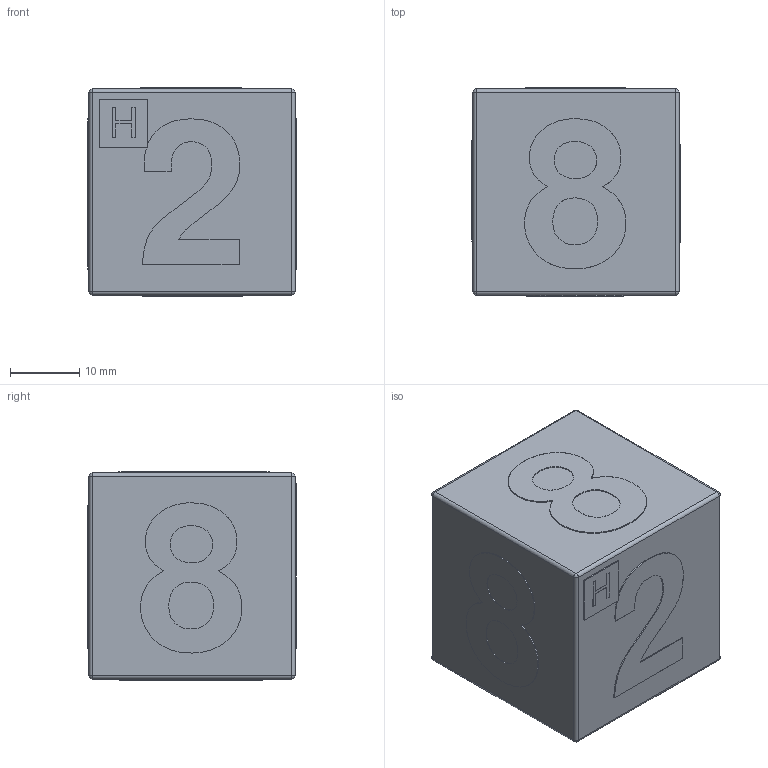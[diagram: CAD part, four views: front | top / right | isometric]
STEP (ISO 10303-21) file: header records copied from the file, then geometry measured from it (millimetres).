
FILE_DESCRIPTION(('Open CASCADE Model'),'2;1');
FILE_NAME('Open CASCADE Shape Model','2025-09-14T20:47:13',('Author'),( 'Open CASCADE'),'Open CASCADE STEP processor 7.8','Open CASCADE 7.8' ,'Unknown');
FILE_SCHEMA(('AUTOMOTIVE_DESIGN { 1 0 10303 214 1 1 1 1 }'));
Length unit declared in the file: millimetre
Products named in the file (20): 9c3311c0-91a3-11f0-88d2-1c1b0deae66b; 9c331378-91a3-11f0-88d2-1c1b0deae66b; 9c331378-91a3-11f0-88d2-1c1b0deae66b_part; 9c3dd696-91a3-11f0-88d2-1c1b0deae66b; 9c3dd696-91a3-11f0-88d2-1c1b0deae66b_part; 9c3faaf2-91a3-11f0-88d2-1c1b0deae66b; 9c3faaf2-91a3-11f0-88d2-1c1b0deae66b_part; 9c40e8c2-91a3-11f0-88d2-1c1b0deae66b; 9c40e8c2-91a3-11f0-88d2-1c1b0deae66b_part; 9c42beae-91a3-11f0-88d2-1c1b0deae66b; 9c42beae-91a3-11f0-88d2-1c1b0deae66b_part; 9c4486b2-91a3-11f0-88d2-1c1b0deae66b; 9c4486b2-91a3-11f0-88d2-1c1b0deae66b_part; 9c45bdfc-91a3-11f0-88d2-1c1b0deae66b; 9c45bdfc-91a3-11f0-88d2-1c1b0deae66b_part; 9c4b7c88-91a3-11f0-88d2-1c1b0deae66b; 9c4b7c88-91a3-11f0-88d2-1c1b0deae66b_part; 9c4b7eea-91a3-11f0-88d2-1c1b0deae66b; 9c4b7eea-91a3-11f0-88d2-1c1b0deae66b_part
Assembly tree (19 placements, depth 4):
  9c3311c0-91a3-11f0-88d2-1c1b0deae66b
    9c3311c0-91a3-11f0-88d2-1c1b0deae66b
      9c331378-91a3-11f0-88d2-1c1b0deae66b
        9c331378-91a3-11f0-88d2-1c1b0deae66b_part
      9c3dd696-91a3-11f0-88d2-1c1b0deae66b
        9c3dd696-91a3-11f0-88d2-1c1b0deae66b_part
      9c3faaf2-91a3-11f0-88d2-1c1b0deae66b
        9c3faaf2-91a3-11f0-88d2-1c1b0deae66b_part
      9c40e8c2-91a3-11f0-88d2-1c1b0deae66b
        9c40e8c2-91a3-11f0-88d2-1c1b0deae66b_part
      9c42beae-91a3-11f0-88d2-1c1b0deae66b
        9c42beae-91a3-11f0-88d2-1c1b0deae66b_part
      9c4486b2-91a3-11f0-88d2-1c1b0deae66b
        9c4486b2-91a3-11f0-88d2-1c1b0deae66b_part
      9c45bdfc-91a3-11f0-88d2-1c1b0deae66b
        9c45bdfc-91a3-11f0-88d2-1c1b0deae66b_part
      9c4b7c88-91a3-11f0-88d2-1c1b0deae66b
        9c4b7c88-91a3-11f0-88d2-1c1b0deae66b_part
      9c4b7eea-91a3-11f0-88d2-1c1b0deae66b
        9c4b7eea-91a3-11f0-88d2-1c1b0deae66b_part
Bounding box: 30 x 30 x 30 mm (x, y, z)
Volume: 26328.1 mm3; surface area: 7296.1 mm2
Topology: 9 solids, 9 shells, 214 faces, 572 edges, 368 vertices
Faces by surface type: extrusion 109, plane 85, cylinder 12, sphere 8
Entity records: 14439 total; most frequent: CARTESIAN_POINT 3458, DIRECTION 1601, VECTOR 1303, LINE 1194, ORIENTED_EDGE 1128, PCURVE 1128, DEFINITIONAL_REPRESENTATION 1128, B_SPLINE_CURVE_WITH_KNOTS 583
